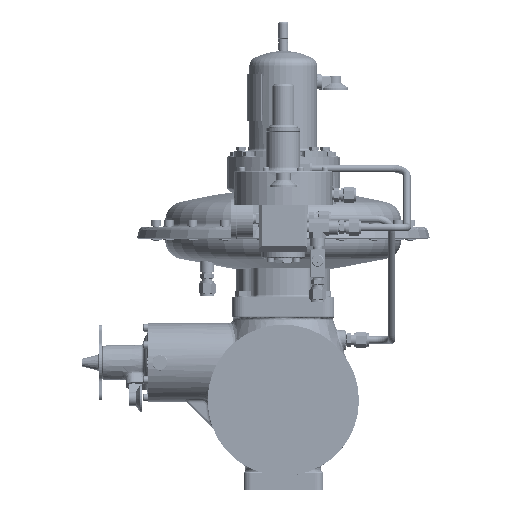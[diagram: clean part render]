
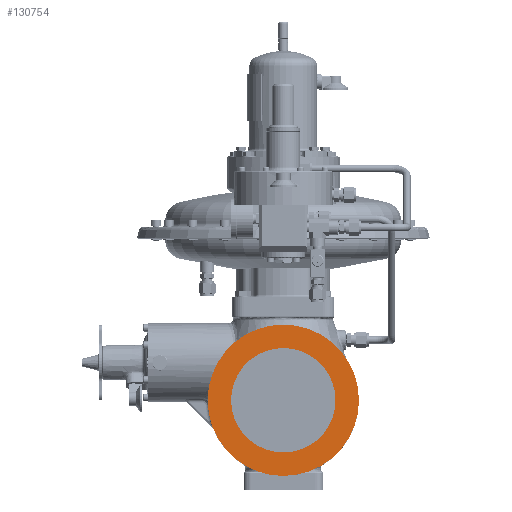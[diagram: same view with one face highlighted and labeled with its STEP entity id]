
A CAD part, top view. The second image highlights one B-rep face of the part: STEP entity #130754.
In plain terms, the highlighted planar face has unit normal (0, 0, 1).
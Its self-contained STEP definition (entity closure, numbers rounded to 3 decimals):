
#41854=CARTESIAN_POINT('',(0.,0.,146.25));
#41855=DIRECTION('',(0.,0.,-1.));
#41856=DIRECTION('',(-1.,0.,0.));
#41857=AXIS2_PLACEMENT_3D('',#41854,#41855,#41856);
#41859=CARTESIAN_POINT('',(0.,0.,146.25));
#41860=DIRECTION('',(0.,0.,-1.));
#41861=DIRECTION('',(1.,0.,0.));
#41862=AXIS2_PLACEMENT_3D('',#41859,#41860,#41861);
#41864=CARTESIAN_POINT('',(0.,0.,146.25));
#41865=DIRECTION('',(0.,0.,1.));
#41866=DIRECTION('',(1.,0.,0.));
#41867=AXIS2_PLACEMENT_3D('',#41864,#41865,#41866);
#41869=CARTESIAN_POINT('',(0.,0.,146.25));
#41870=DIRECTION('',(0.,0.,1.));
#41871=DIRECTION('',(-1.,0.,0.));
#41872=AXIS2_PLACEMENT_3D('',#41869,#41870,#41871);
#73068=CARTESIAN_POINT('',(69.,0.,146.25));
#73069=VERTEX_POINT('',#73068);
#73070=CARTESIAN_POINT('',(-69.,0.,146.25));
#73071=VERTEX_POINT('',#73070);
#73072=CARTESIAN_POINT('',(-100.,0.,146.25));
#73073=CARTESIAN_POINT('',(100.,0.,146.25));
#73074=VERTEX_POINT('',#73072);
#73075=VERTEX_POINT('',#73073);
#130738=CARTESIAN_POINT('',(0.,0.,146.25));
#130739=DIRECTION('',(0.,0.,1.));
#130740=DIRECTION('',(1.,0.,0.));
#130741=AXIS2_PLACEMENT_3D('',#130738,#130739,#130740);
#130742=PLANE('',#130741);
#130743=ORIENTED_EDGE('',*,*,#130728,.T.);
#130745=ORIENTED_EDGE('',*,*,#130744,.T.);
#130746=EDGE_LOOP('',(#130743,#130745));
#130747=FACE_OUTER_BOUND('',#130746,.F.);
#130749=ORIENTED_EDGE('',*,*,#130748,.T.);
#130751=ORIENTED_EDGE('',*,*,#130750,.T.);
#130752=EDGE_LOOP('',(#130749,#130751));
#130753=FACE_BOUND('',#130752,.F.);
#130754=ADVANCED_FACE('',(#130747,#130753),#130742,.T.);
#41858=CIRCLE('',#41857,100.);
#41863=CIRCLE('',#41862,100.);
#41868=CIRCLE('',#41867,69.);
#41873=CIRCLE('',#41872,69.);
#130728=EDGE_CURVE('',#73074,#73075,#41858,.T.);
#130744=EDGE_CURVE('',#73075,#73074,#41863,.T.);
#130748=EDGE_CURVE('',#73069,#73071,#41868,.T.);
#130750=EDGE_CURVE('',#73071,#73069,#41873,.T.);
